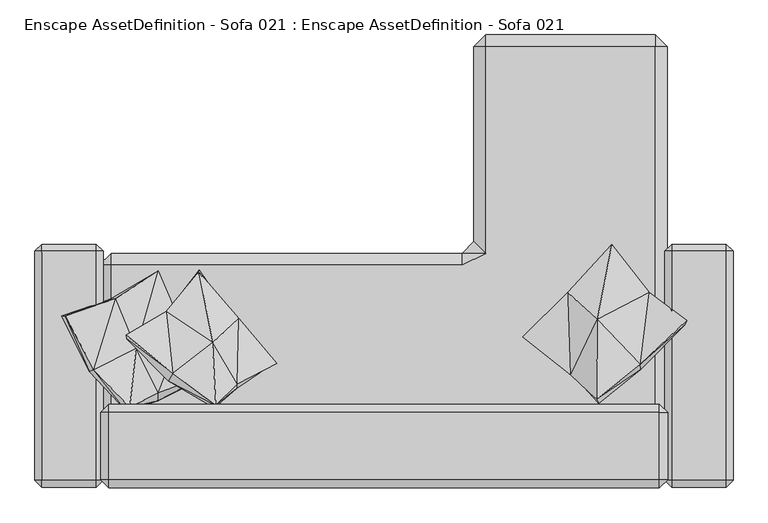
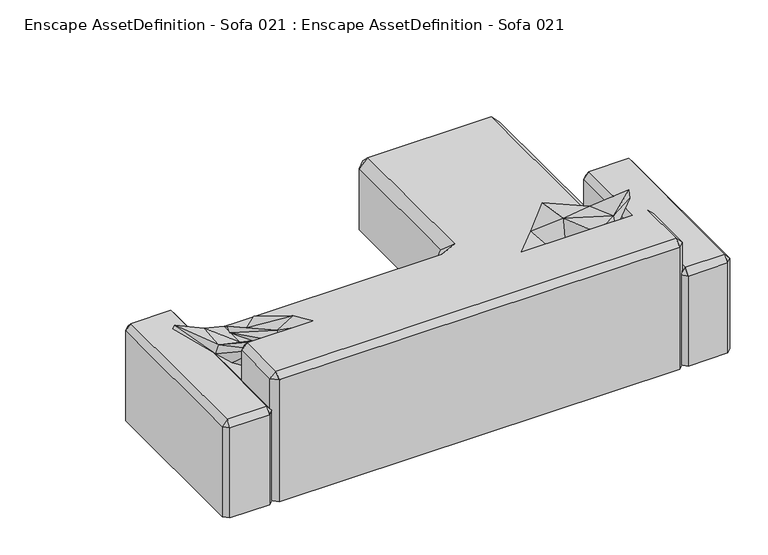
"""IFC4 building model written with IfcOpenShell, lengths in millimetres: geographic element geometry, Enscape AssetDefinition - Sofa 021 : Enscape AssetDefinition - Sofa 021."""

from ifc_helpers import new_model, si_unit, origin, place, context, project, spatial, triangles, source, transform, mapped, element, save


def enscape_assetdefinition_sofa_021_enscape_assetdefinition_05d71fce(model_context):
    return source(origin(), model_context, "Body", "Tessellation", [
        triangles([(538.9153974, 210.2950672, 0.0), (-1045.8544762, 210.2950672, 0.0), (-1045.8545488, 210.2950672, 401.5236019), (-1045.8545488, 156.3490504, 455.4696187), (538.9153974, 210.2950672, 401.5236019), (-1099.8004566, 156.3490504, 401.5236019), (-1099.8004566, -516.7352105, 0.0), (-1099.8004566, 156.3490867, 0.0), (538.9153974, 156.3490504, 455.4696187), (592.8614141, 264.2410476, 401.5236019), (538.9153974, -516.7351378, 455.469655), (-1099.8004566, -516.7351378, 401.5236746), (-1045.8545488, -516.7351378, 455.469655), (1466.3388393, -516.7352105, 0.0), (592.8614141, -516.7352105, 0.0), (1412.3928589, -516.7351378, 455.469655), (1466.3388393, 210.2950672, 0.0), (646.8073946, -516.7351378, 455.469655), (1466.3388393, -516.7351378, 401.5236746), (1466.3388393, 210.2950672, 401.5236019), (1412.3928589, 210.2950127, 455.4696187), (1466.3388393, 1144.1346691, 401.5236019), (1412.3928589, 1144.1346691, 455.4696187), (646.8073946, 1144.1346691, 455.4696187), (646.8073946, 210.2950127, 455.4696187), (592.8614141, 1144.1346691, 401.5236019), (1412.3928589, 1198.0806496, 401.5236019), (646.8073946, 1198.0806496, 401.5236019), (1466.3388393, 1144.1347418, 0.0), (1412.3930042, 1198.0806496, 0.0), (646.8073946, 1198.0806496, 0.0), (592.8614141, 264.2410476, 0.0), (592.8614141, 1144.1347418, 0.0), (-1093.1956999, -509.5266752, 800.8620901), (-1056.8152897, -509.5266752, 837.2424276), (-1056.8152897, -851.3001451, 800.8620901), (-1056.8152897, -814.919735, 837.2424276), (-1093.1956999, -814.919735, 0.0), (-1056.8152897, -473.1463014, 800.8620901), (-1093.1956999, -509.5266752, 0.0), (-1093.1956999, -814.919735, 800.8620901), (-1056.8152897, -851.3001451, 0.0), (1431.1815376, -814.919735, 837.2424276), (-1056.8152897, -473.1463014, 0.0), (1431.1815376, -473.1463014, 0.0), (1431.1815376, -851.3001451, 0.0), (1431.1815376, -851.3001451, 800.8620901), (1467.5620205, -814.919735, 0.0), (1431.1815376, -509.5266752, 837.2424276), (1467.5620205, -509.5266752, 0.0), (1467.5620205, -814.919735, 800.8620901), (1431.1815376, -473.1463014, 800.8620901), (1467.5620205, -509.5266752, 800.8620901), (1733.0376766, 219.6400636, 630.2671978), (1486.13298, 219.6400636, 630.2671978), (1733.0376766, -817.1658188, 630.2671978), (1486.13298, -817.1658188, 630.2671978), (1455.2970715, -817.1658188, 591.2773539), (1455.2970715, 219.6400636, 591.2774265), (1486.13298, 250.4756996, 591.2774265), (1455.2972168, 219.6401, -4.01e-05), (1455.2970715, -817.1658188, 0.0), (1486.13298, -848.0015093, 0.0), (1733.0376766, -848.0015093, 0.0), (1486.13298, -848.0015093, 591.2773539), (1486.1328346, 250.475736, -4.01e-05), (1733.037822, 250.475736, -4.01e-05), (1733.0376766, 250.4756996, 591.2774265), (1763.8735851, -817.1658188, 0.0), (1733.0376766, -848.0015093, 591.2773539), (1763.8735851, -817.1658188, 591.2773539), (1763.8734398, 219.6401, -4.01e-05), (1763.8735851, 219.6400636, 591.2774265), (-1113.4694624, -817.1658188, 627.5555901), (-1113.4696077, 219.6400636, 627.5555901), (-1360.3187119, 219.6400636, 627.5555901), (-1360.3187119, 250.4756996, 591.2774265), (-1360.3187119, -817.1658188, 627.5555901), (-1360.3187119, -848.0015093, 591.2773539), (-1391.1543297, 219.6400636, 591.2774265), (-1391.1543297, -817.1658188, 0.0), (-1391.1543297, -817.1658188, 591.2773539), (-1391.1543297, 219.6401, -4.01e-05), (-1360.3187119, -848.0015093, 0.0), (-1113.4694624, -848.0015093, 591.2773539), (-1360.3187119, 250.475736, -4.01e-05), (-1113.4696077, 250.4756996, 591.2774265), (-1082.6339899, 219.6401, -4.01e-05), (-1082.6339899, 219.6400636, 591.2774265), (-1113.4696077, 250.475736, -4.01e-05), (-1113.4694624, -848.0015093, 0.0), (-1082.6338446, -817.1658188, 591.2773539), (-1082.6338446, -817.1658188, 0.0), (1029.0243988, 29.8024301, 483.4131166), (831.6174076, -179.1760182, 458.9592676), (812.9630957, -168.5366967, 504.5155349), (1044.0189777, -343.3113848, 481.5393937), (1029.7247194, -339.4550068, 530.7351917), (1149.3649458, -89.194919, 628.073073), (1017.5540234, 33.2961531, 515.4485158), (1216.6172361, 195.9969028, 470.9780107), (1215.1340418, 250.2722055, 500.5061139), (1384.3284382, 33.4202007, 551.4591811), (1146.877743, -450.5241357, 757.6041201), (1155.7301096, -467.8948414, 728.369858), (1345.6258587, -315.7177929, 635.0291164), (1344.7964035, -293.2979404, 698.795137), (1546.1344048, -114.6855143, 635.9133648), (1391.3245228, 10.6507988, 512.8642985), (1554.2641411, -93.5586879, 676.3745579), (1182.2946218, -211.3989787, 449.8033948), (-648.415654, 135.2146391, 456.798353), (-649.9315498, 126.1473782, 485.5654924), (-809.625, -73.051741, 531.7950834), (-489.5100191, -98.0647355, 466.0593793), (-797.8058086, -51.8609923, 568.1459896), (-588.2120613, -192.4182877, 658.1655676), (-469.8697572, -84.3092161, 492.9057421), (-477.8544442, -379.9948288, 612.09774), (-317.0543756, -289.946855, 461.8382343), (-298.3971205, -288.332782, 480.3104716), (-478.1075538, -401.8095946, 582.8324478), (-788.6246103, -367.9224552, 667.9135918), (-581.1414173, -488.6626144, 758.2248671), (-573.2844478, -477.996623, 777.4908422), (-975.2329874, -176.1193552, 672.074675), (-978.5243563, -159.7708982, 706.8072933), (-768.0404743, -332.0067332, 711.3275116), (-689.2284245, -259.5715834, 502.8218519), (-1269.2372074, -73.3400864, 739.6253483), (-1144.4805782, -323.0032494, 684.879344), (-1254.5479877, -72.748253, 755.9842335), (-1124.2472202, -317.0994673, 730.590144), (-976.4419252, -504.4547828, 760.0746815), (-1026.8193735, 5.1822259, 609.6729607), (-1052.8693096, 0.8388941, 554.3547893), (-849.615873, 92.4273707, 438.2195452), (-832.7166138, 129.9442758, 478.5744221), (-835.6021935, -457.4834493, 518.4227165), (-990.410622, -232.0886134, 515.4782015), (-934.216959, -219.5728802, 621.5667114), (-962.7733555, -487.556432, 800.7973412), (-732.5837723, -138.2773337, 488.1189703), (-623.9140245, -350.9082321, 470.3444012), (-721.7938059, -134.3061462, 519.1100292), (-597.4360622, -334.1817822, 505.7977967), (-834.6412783, -422.1180207, 569.3130332)], [[146, 144, 145], [146, 145, 147], [147, 145, 141], [142, 147, 141], [147, 139, 146], [142, 139, 147], [139, 144, 146], [144, 139, 143], [144, 143, 145], [143, 137, 145], [145, 138, 141], [145, 137, 138], [138, 135, 141], [133, 142, 141], [141, 135, 133], [134, 139, 142], [133, 134, 142], [143, 140, 137], [139, 134, 140], [143, 139, 140], [137, 136, 138], [138, 136, 135], [137, 140, 136], [135, 136, 132], [135, 132, 133], [131, 134, 133], [140, 131, 136], [132, 131, 133], [134, 131, 140], [130, 131, 132], [136, 130, 132], [131, 130, 136], [123, 126, 129], [127, 126, 128], [126, 123, 128], [128, 123, 125], [123, 124, 125], [124, 123, 122], [124, 122, 125], [122, 123, 129], [122, 129, 120], [122, 120, 119], [125, 122, 119], [119, 120, 121], [121, 120, 118], [121, 118, 119], [128, 125, 117], [119, 118, 117], [125, 119, 117], [127, 128, 116], [116, 128, 117], [116, 126, 127], [118, 113, 117], [117, 113, 116], [118, 115, 113], [120, 115, 118], [120, 129, 115], [114, 126, 116], [129, 114, 115], [113, 114, 116], [126, 114, 129], [112, 114, 113], [115, 112, 113], [114, 112, 115], [105, 97, 111], [106, 105, 111], [108, 106, 109], [109, 106, 111], [108, 109, 110], [110, 109, 103], [110, 103, 107], [106, 108, 107], [107, 108, 110], [105, 106, 104], [104, 106, 107], [97, 105, 104], [98, 97, 104], [98, 104, 99], [104, 107, 99], [107, 103, 99], [103, 102, 99], [109, 111, 101], [109, 101, 103], [103, 101, 102], [102, 101, 100], [99, 100, 98], [102, 100, 99], [96, 97, 98], [100, 96, 98], [100, 94, 96], [111, 97, 94], [101, 94, 100], [101, 111, 94], [95, 97, 96], [94, 95, 96], [97, 95, 94], [75, 89, 87], [89, 75, 92], [93, 88, 92], [92, 88, 89], [92, 75, 74], [85, 93, 92], [74, 85, 92], [91, 93, 85], [91, 90, 93], [88, 93, 90], [88, 90, 89], [89, 90, 87], [90, 86, 87], [90, 84, 86], [91, 84, 90], [85, 74, 79], [84, 91, 79], [79, 91, 85], [82, 84, 79], [84, 81, 86], [81, 84, 82], [83, 86, 81], [83, 77, 86], [87, 86, 77], [80, 77, 83], [83, 81, 80], [80, 81, 82], [82, 78, 80], [79, 74, 78], [78, 82, 79], [77, 76, 87], [75, 76, 74], [80, 78, 76], [87, 76, 75], [76, 77, 80], [74, 76, 78], [54, 73, 68], [73, 54, 71], [69, 72, 71], [71, 72, 73], [71, 54, 56], [70, 69, 71], [56, 70, 71], [64, 69, 70], [64, 67, 69], [72, 69, 67], [72, 67, 73], [73, 67, 68], [67, 66, 68], [67, 63, 66], [64, 63, 67], [70, 56, 65], [63, 64, 65], [65, 64, 70], [58, 63, 65], [63, 62, 66], [62, 63, 58], [61, 66, 62], [61, 60, 66], [68, 66, 60], [59, 60, 61], [61, 62, 59], [59, 62, 58], [58, 57, 59], [65, 56, 57], [57, 58, 65], [60, 55, 68], [54, 55, 56], [59, 57, 55], [68, 55, 54], [55, 60, 59], [56, 55, 57], [49, 53, 52], [53, 45, 52], [50, 45, 53], [53, 49, 51], [48, 50, 51], [51, 50, 53], [51, 49, 43], [47, 48, 51], [43, 47, 51], [48, 46, 50], [46, 48, 47], [50, 46, 45], [45, 46, 44], [45, 44, 52], [46, 42, 44], [47, 43, 36], [42, 46, 36], [36, 46, 47], [41, 42, 36], [42, 38, 44], [38, 42, 41], [38, 40, 44], [40, 39, 44], [52, 44, 39], [34, 39, 40], [40, 38, 34], [34, 38, 41], [41, 37, 34], [36, 43, 37], [37, 41, 36], [39, 35, 52], [49, 35, 43], [34, 37, 35], [52, 35, 49], [35, 39, 34], [43, 35, 37], [17, 1, 32], [1, 10, 32], [32, 10, 33], [17, 32, 33], [31, 17, 33], [30, 17, 31], [29, 17, 30], [29, 30, 22], [22, 17, 29], [22, 30, 27], [27, 30, 28], [33, 28, 31], [30, 31, 28], [26, 28, 33], [33, 10, 26], [10, 25, 26], [26, 25, 24], [24, 27, 28], [28, 26, 24], [23, 27, 24], [27, 23, 22], [20, 17, 22], [23, 20, 22], [21, 20, 23], [25, 21, 24], [24, 21, 23], [20, 21, 19], [14, 17, 19], [19, 17, 20], [19, 21, 16], [16, 21, 18], [21, 25, 18], [15, 1, 17], [16, 15, 19], [18, 15, 16], [18, 11, 15], [14, 15, 17], [15, 14, 19], [7, 15, 12], [12, 15, 13], [13, 15, 11], [25, 9, 18], [11, 9, 13], [18, 9, 11], [5, 10, 1], [10, 5, 25], [25, 5, 9], [5, 4, 9], [9, 4, 13], [12, 13, 6], [6, 13, 4], [6, 7, 12], [8, 7, 6], [7, 8, 15], [6, 3, 8], [3, 4, 5], [5, 1, 3], [4, 3, 6], [8, 2, 15], [8, 3, 2], [1, 2, 3], [15, 2, 1]]),
    ])


if __name__ == "__main__":
    model = new_model("IFC4")
    model_context = context("Model", 3, world=origin())
    ifc_project = project(units=[si_unit("LENGTHUNIT", "METRE", prefix="MILLI")], contexts=[model_context])
    site = spatial("IfcSite", under=ifc_project)
    building = spatial("IfcBuilding", under=site)
    placement = place(None, origin())
    enscape_assetdefinition_sofa_021_enscape_assetdefinition_shape = enscape_assetdefinition_sofa_021_enscape_assetdefinition_05d71fce(model_context)
    element("IfcGeographicElement", 1, ObjectType="Enscape AssetDefinition - Sofa 021 : Enscape AssetDefinition - Sofa 021", at=placement, inside=building, context=model_context, shape_type="MappedRepresentation", body=[
        mapped(enscape_assetdefinition_sofa_021_enscape_assetdefinition_shape, transform((0.0, 0.0, 0.0), x_axis=(1.0, 0.0, 0.0), y_axis=(0.0, 1.0, 0.0), z_axis=(0.0, 0.0, 1.0))),
    ])
    save(model, "model.ifc")
